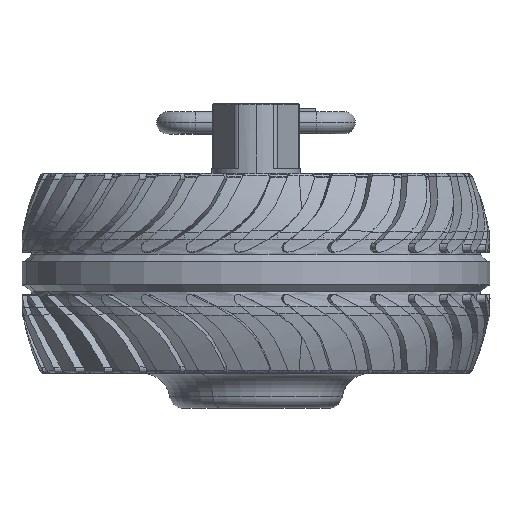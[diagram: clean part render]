
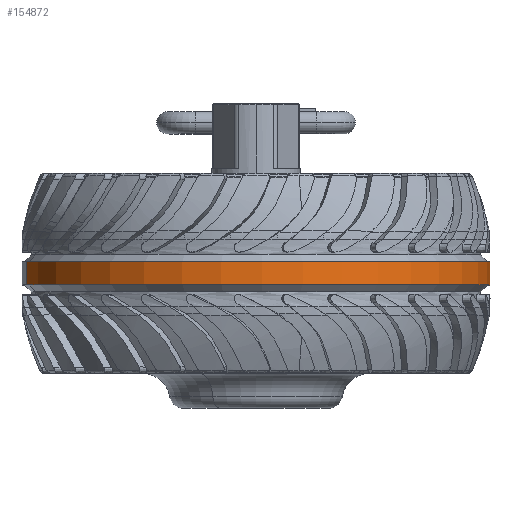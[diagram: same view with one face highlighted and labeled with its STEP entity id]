
A CAD part, top view. The second image highlights one B-rep face of the part: STEP entity #154872.
In plain terms, the highlighted cylindrical face has radius 50.35 mm (diameter 100.7 mm), a partial arc.
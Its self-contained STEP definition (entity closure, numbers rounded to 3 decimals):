
#1398 = AXIS2_PLACEMENT_3D ( 'NONE', #149305, #177690, #26206 ) ;
#8239 = VERTEX_POINT ( 'NONE', #183730 ) ;
#9404 = VECTOR ( 'NONE', #24929, 1000. ) ;
#14967 = DIRECTION ( 'NONE',  ( 0., 1., 0. ) ) ;
#16081 = EDGE_CURVE ( 'NONE', #8239, #170560, #169964, .T. ) ;
#24929 = DIRECTION ( 'NONE',  ( 0., -1., 0. ) ) ;
#26206 = DIRECTION ( 'NONE',  ( 0.98, 0., -0.199 ) ) ;
#26514 = ORIENTED_EDGE ( 'NONE', *, *, #164610, .T. ) ;
#34398 = EDGE_CURVE ( 'NONE', #8239, #51417, #105340, .T. ) ;
#35154 = CARTESIAN_POINT ( 'NONE',  ( -49.341, -0.51, 10.031 ) ) ;
#51417 = VERTEX_POINT ( 'NONE', #106689 ) ;
#52907 = CARTESIAN_POINT ( 'NONE',  ( -49.341, 4.49, 10.031 ) ) ;
#56185 = LINE ( 'NONE', #161766, #9404 ) ;
#58047 = DIRECTION ( 'NONE',  ( 0.98, 0., -0.199 ) ) ;
#59592 = AXIS2_PLACEMENT_3D ( 'NONE', #102994, #180193, #58047 ) ;
#76543 = FACE_OUTER_BOUND ( 'NONE', #142010, .T. ) ;
#85848 = ORIENTED_EDGE ( 'NONE', *, *, #144174, .T. ) ;
#91228 = CYLINDRICAL_SURFACE ( 'NONE', #59592, 50.35 ) ;
#102994 = CARTESIAN_POINT ( 'NONE',  ( 0., 1.99, 0. ) ) ;
#105340 = LINE ( 'NONE', #165001, #108063 ) ;
#106689 = CARTESIAN_POINT ( 'NONE',  ( 49.341, -0.51, -10.031 ) ) ;
#107829 = CIRCLE ( 'NONE', #157684, 50.35 ) ;
#108063 = VECTOR ( 'NONE', #136625, 1000. ) ;
#132291 = DIRECTION ( 'NONE',  ( -0.98, 0., 0.199 ) ) ;
#136625 = DIRECTION ( 'NONE',  ( 0., -1., 0. ) ) ;
#142010 = EDGE_LOOP ( 'NONE', ( #150035, #85848, #26514, #166073 ) ) ;
#144174 = EDGE_CURVE ( 'NONE', #170560, #169166, #56185, .T. ) ;
#149305 = CARTESIAN_POINT ( 'NONE',  ( 0., 4.49, 0. ) ) ;
#150035 = ORIENTED_EDGE ( 'NONE', *, *, #16081, .T. ) ;
#154872 = ADVANCED_FACE ( 'NONE', ( #76543 ), #91228, .T. ) ;
#157684 = AXIS2_PLACEMENT_3D ( 'NONE', #164499, #14967, #132291 ) ;
#161766 = CARTESIAN_POINT ( 'NONE',  ( -49.341, 1.99, 10.031 ) ) ;
#164499 = CARTESIAN_POINT ( 'NONE',  ( 0., -0.51, 0. ) ) ;
#164610 = EDGE_CURVE ( 'NONE', #169166, #51417, #107829, .T. ) ;
#165001 = CARTESIAN_POINT ( 'NONE',  ( 49.341, 1.99, -10.031 ) ) ;
#166073 = ORIENTED_EDGE ( 'NONE', *, *, #34398, .F. ) ;
#169166 = VERTEX_POINT ( 'NONE', #35154 ) ;
#169964 = CIRCLE ( 'NONE', #1398, 50.35 ) ;
#170560 = VERTEX_POINT ( 'NONE', #52907 ) ;
#177690 = DIRECTION ( 'NONE',  ( 0., -1., 0. ) ) ;
#180193 = DIRECTION ( 'NONE',  ( 0., -1., 0. ) ) ;
#183730 = CARTESIAN_POINT ( 'NONE',  ( 49.341, 4.49, -10.031 ) ) ;
